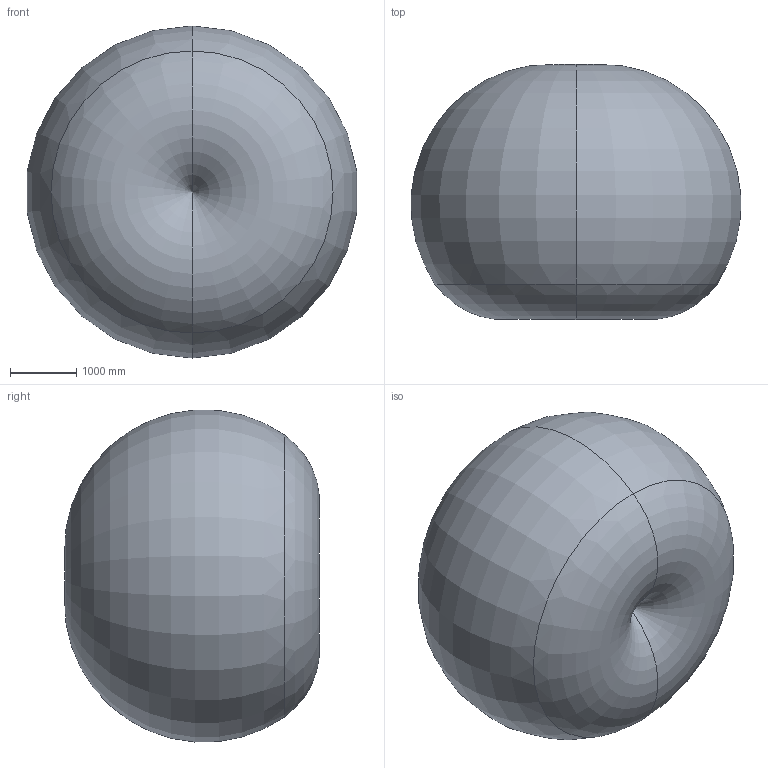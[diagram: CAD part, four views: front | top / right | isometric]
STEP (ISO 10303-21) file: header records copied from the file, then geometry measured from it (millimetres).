
FILE_DESCRIPTION (( 'STEP AP214' ), '1' );
FILE_NAME ('SMART-5 NJ-40-2.5 (3D-STEP).STEP', '2013-02-01T09:49:16', ( '' ), ( '' ), 'SwSTEP 2.0', 'SolidWorks 2007', '' );
FILE_SCHEMA (( 'AUTOMOTIVE_DESIGN' ));
Length unit declared in the file: millimetre
Products named in the file (26): SMART-5 NJ-40-2.5_p14; SMART-5 NJ-40-2.5_p13; SMART-5 NJ-40-2.5_p12; SMART-5 NJ-40-2.5_SM-CR82350042; SMART-5 NJ-40-2.5_SM-CR82350032; Operation Area SMART-5 NJ40-2_5-2; SMART-5 NJ-40-2.5_cab04; SMART-5 NJ-40-2.5_cab01; SMART-5 NJ-40-2.5_cab03; SMART-5 NJ-40-2.5_cab02; SMART-5 NJ-40-2.5_p16; SMART-5 NJ-40-2.5_p15; SMART-5 NJ-40-2.5_p06; SMART-5 NJ-40-2.5_p02; SMART-5 NJ-40-2.5_p01; SMART-5 NJ-40-2.5 (3D-STEP); SMART-5 NJ-40-2.5_p05; SMART-5 NJ-40-2.5_p04; SMART-5 NJ-40-2.5_p03; SMART-5 NJ-40-2.5_p09; SMART-5 NJ-40-2.5_p08; SMART-5 NJ-40-2.5_p07; SMART-5 NJ-40-2.5_SM-CR82350044; SMART-5 NJ-40-2.5_SM-CR82350074; SMART-5 NJ-40-2.5_SM-CR82350094; SMART-5 NJ-40-2.5_p10
Assembly tree (29 placements, depth 2):
  SMART-5 NJ-40-2.5 (3D-STEP)
    SMART-5 NJ-40-2.5_p15  x3
    SMART-5 NJ-40-2.5_p10
    SMART-5 NJ-40-2.5_p02
    SMART-5 NJ-40-2.5_p16  x2
    SMART-5 NJ-40-2.5_p07
    SMART-5 NJ-40-2.5_p08
    SMART-5 NJ-40-2.5_p09
    SMART-5 NJ-40-2.5_p13
    SMART-5 NJ-40-2.5_SM-CR82350094
    SMART-5 NJ-40-2.5_p05
    Operation Area SMART-5 NJ40-2_5-2
    SMART-5 NJ-40-2.5_SM-CR82350074  x2
    SMART-5 NJ-40-2.5_p04
    SMART-5 NJ-40-2.5_SM-CR82350032
    SMART-5 NJ-40-2.5_p12
    SMART-5 NJ-40-2.5_cab03
    SMART-5 NJ-40-2.5_SM-CR82350044
    SMART-5 NJ-40-2.5_p03
    SMART-5 NJ-40-2.5_cab04
    SMART-5 NJ-40-2.5_cab01
    SMART-5 NJ-40-2.5_p14
    SMART-5 NJ-40-2.5_SM-CR82350042
    SMART-5 NJ-40-2.5_cab02
    SMART-5 NJ-40-2.5_p06
    SMART-5 NJ-40-2.5_p01
Bounding box: 4960.81 x 3836.72 x 4997.25 mm (x, y, z)
Volume: 51753269031.5 mm3; surface area: 94527453.1 mm2
Topology: 37 solids, 38 shells, 4191 faces, 11175 edges, 7205 vertices
Faces by surface type: cylinder 1808, plane 1741, cone 285, torus 197, bspline 156, sphere 4
Entity records: 144888 total; most frequent: CARTESIAN_POINT 40259, ORIENTED_EDGE 20244, DIRECTION 19985, EDGE_CURVE 10122, AXIS2_PLACEMENT_3D 7437, VERTEX_POINT 6619, VECTOR 5111, LINE 5111
